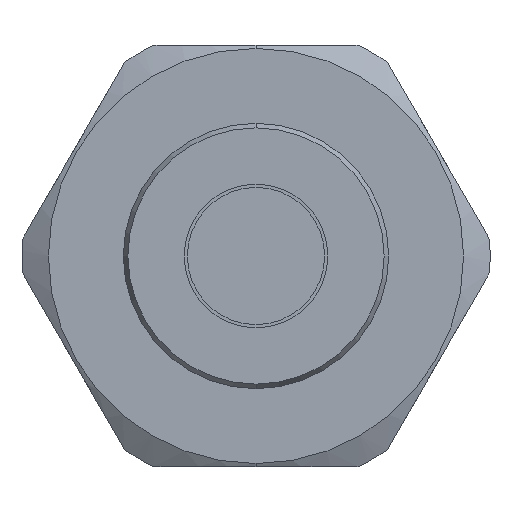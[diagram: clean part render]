
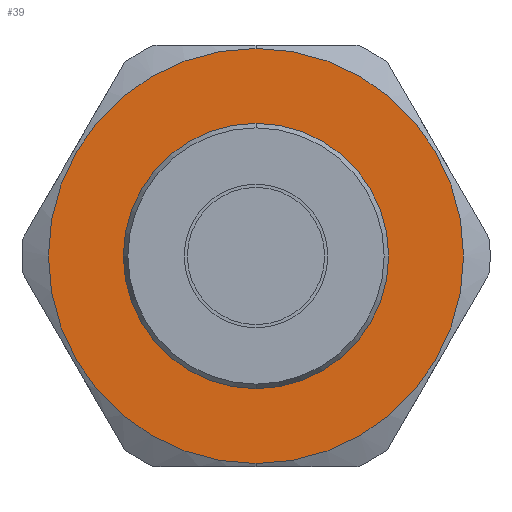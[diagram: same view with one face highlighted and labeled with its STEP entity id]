
A CAD part, front view. The second image highlights one B-rep face of the part: STEP entity #39.
In plain terms, the highlighted planar face has unit normal (0, -1, 0).
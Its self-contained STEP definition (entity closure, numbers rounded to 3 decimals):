
#31 = EDGE_LOOP ( 'NONE', ( #32, #2271 ) ) ;
#32 = ORIENTED_EDGE ( 'NONE', *, *, #54, .F. ) ;
#34 = ORIENTED_EDGE ( 'NONE', *, *, #87, .T. ) ;
#35 = ORIENTED_EDGE ( 'NONE', *, *, #38, .T. ) ;
#38 = EDGE_CURVE ( 'NONE', #85, #88, #566, .T. ) ;
#39 = ADVANCED_FACE ( 'NONE', ( #621, #620 ), #619, .T. ) ;
#40 = EDGE_LOOP ( 'NONE', ( #34, #35 ) ) ;
#54 = EDGE_CURVE ( 'NONE', #55, #56, #645, .T. ) ;
#55 = VERTEX_POINT ( 'NONE', #640 ) ;
#56 = VERTEX_POINT ( 'NONE', #639 ) ;
#85 = VERTEX_POINT ( 'NONE', #683 ) ;
#87 = EDGE_CURVE ( 'NONE', #88, #85, #682, .T. ) ;
#88 = VERTEX_POINT ( 'NONE', #742 ) ;
#566 = CIRCLE ( 'NONE', #624, 8.5 ) ;
#567 = CARTESIAN_POINT ( 'NONE',  ( 0., 13., 0. ) ) ;
#615 = DIRECTION ( 'NONE',  ( 0., 0., -1. ) ) ;
#616 = DIRECTION ( 'NONE',  ( 0., -1., 0. ) ) ;
#617 = CARTESIAN_POINT ( 'NONE',  ( 0., 13., 13.3 ) ) ;
#618 = AXIS2_PLACEMENT_3D ( 'NONE', #617, #616, #615 ) ;
#619 = PLANE ( 'NONE',  #618 ) ;
#620 = FACE_OUTER_BOUND ( 'NONE', #31, .T. ) ;
#621 = FACE_BOUND ( 'NONE', #40, .T. ) ;
#622 = DIRECTION ( 'NONE',  ( 0., 0., 1. ) ) ;
#623 = DIRECTION ( 'NONE',  ( 0., 1., 0. ) ) ;
#624 = AXIS2_PLACEMENT_3D ( 'NONE', #567, #623, #622 ) ;
#639 = CARTESIAN_POINT ( 'NONE',  ( 0., 13., -13.3 ) ) ;
#640 = CARTESIAN_POINT ( 'NONE',  ( 0., 13., 13.3 ) ) ;
#641 = DIRECTION ( 'NONE',  ( 0., 0., 1. ) ) ;
#642 = DIRECTION ( 'NONE',  ( 0., 1., 0. ) ) ;
#643 = CARTESIAN_POINT ( 'NONE',  ( 0., 13., 0. ) ) ;
#644 = AXIS2_PLACEMENT_3D ( 'NONE', #643, #642, #641 ) ;
#645 = CIRCLE ( 'NONE', #644, 13.3 ) ;
#682 = CIRCLE ( 'NONE', #746, 8.5 ) ;
#683 = CARTESIAN_POINT ( 'NONE',  ( 0., 13., -8.5 ) ) ;
#742 = CARTESIAN_POINT ( 'NONE',  ( 0., 13., 8.5 ) ) ;
#743 = DIRECTION ( 'NONE',  ( 0., 0., 1. ) ) ;
#744 = DIRECTION ( 'NONE',  ( 0., 1., 0. ) ) ;
#745 = CARTESIAN_POINT ( 'NONE',  ( 0., 13., 0. ) ) ;
#746 = AXIS2_PLACEMENT_3D ( 'NONE', #745, #744, #743 ) ;
#1654 = DIRECTION ( 'NONE',  ( 0., 0., 1. ) ) ;
#1655 = DIRECTION ( 'NONE',  ( 0., 1., 0. ) ) ;
#1656 = CARTESIAN_POINT ( 'NONE',  ( 0., 13., 0. ) ) ;
#1657 = AXIS2_PLACEMENT_3D ( 'NONE', #1656, #1655, #1654 ) ;
#1658 = CIRCLE ( 'NONE', #1657, 13.3 ) ;
#2271 = ORIENTED_EDGE ( 'NONE', *, *, #2272, .F. ) ;
#2272 = EDGE_CURVE ( 'NONE', #56, #55, #1658, .T. ) ;
